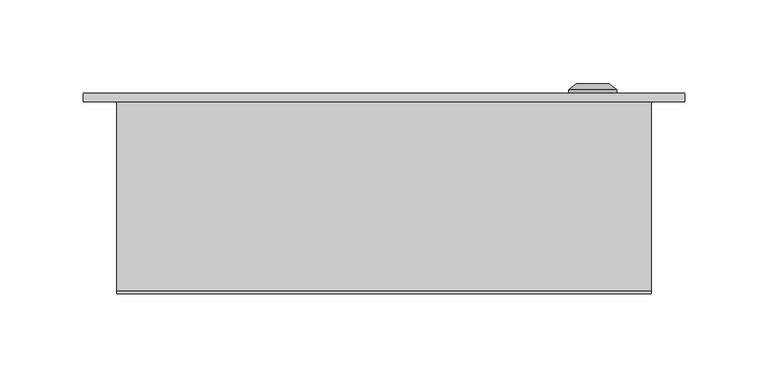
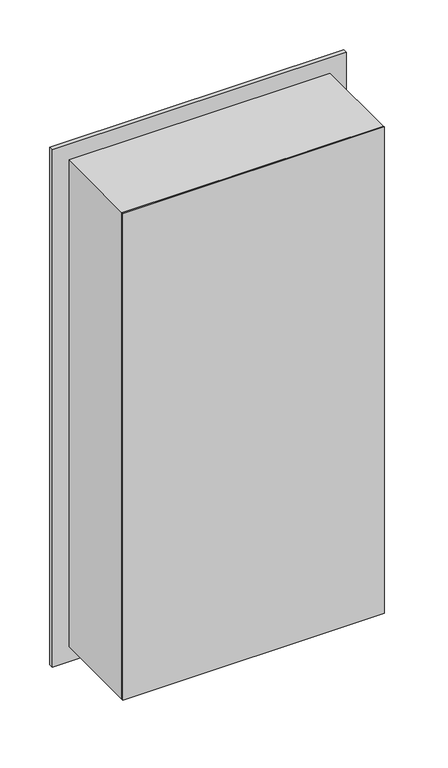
"""IFC4 building model written with IfcOpenShell, lengths in millimetres: proxy geometry, ЩРВ_48 : ЩРВ-48."""

from ifc_helpers import new_model, si_unit, frame, origin, origin_with_axes, place, context, project, spatial, polyline, circle_curve, outline, extrude, source, transform, mapped, element, save
from ifc_brep_helpers import plane_surface, cylinder_surface, revolved_surface, advanced_brep


def electrical_equipment_aaa1e754(model_context):
    return source(origin(), model_context, "Body", "SolidModel", [
        extrude(outline(polyline([(650.0, -180.0033905), (-20.0, -180.0033905), (-20.0, 179.9966095), (650.0, 179.9966095), (650.0, -180.0033905)]), holes=[polyline([(625.0, -155.0), (625.0, 155.0), (5.0, 155.0), (5.0, -155.0), (625.0, -155.0)])]), frame((0.0, 115.0, 0.0), z_axis=(0.0, 1.0, 0.0), x_axis=(0.0, 0.0, 1.0)), (0.0, 0.0, 1.0), 5.0),
        advanced_brep(
        [(110.669873, 120.0, 315.0), (139.330127, 120.0, 315.0), (125.0, 120.0, 315.0), (110.669873, 122.366592, 315.0), (139.330127, 122.366592, 315.0), (115.0, 126.0, 315.0), (135.0, 126.0, 315.0), (123.1080471, 126.0, 315.0), (126.8919529, 126.0, 315.0), (123.1080471, 124.9822294, 315.0), (126.8919529, 124.9822294, 315.0), (125.0, 124.9822294, 315.0)],
        [
            (0, 1, circle_curve(frame((125.0, 120.0, 315.0), z_axis=(0.0, -1.0, 0.0), x_axis=(1.0, 0.0, 0.0)), 14.330127)),
            (1, 2),
            (2, 0),
            (1, 0, circle_curve(frame((125.0, 120.0, 315.0), z_axis=(0.0, -1.0, 0.0), x_axis=(1.0, 0.0, 0.0)), 14.330127)),
            (3, 4, circle_curve(frame((125.0, 122.366592, 315.0), z_axis=(0.0, -1.0, 0.0), x_axis=(1.0, 0.0, 0.0)), 14.330127)),
            (4, 1),
            (0, 3),
            (4, 3, circle_curve(frame((125.0, 122.366592, 315.0), z_axis=(0.0, -1.0, 0.0), x_axis=(1.0, 0.0, 0.0)), 14.330127)),
            (5, 6, circle_curve(frame((125.0, 126.0, 315.0), z_axis=(0.0, -1.0, 0.0), x_axis=(1.0, 0.0, 0.0)), 10.0)),
            (6, 4),
            (3, 5),
            (6, 5, circle_curve(frame((125.0, 126.0, 315.0), z_axis=(0.0, -1.0, 0.0), x_axis=(1.0, 0.0, 0.0)), 10.0)),
            (7, 8, circle_curve(frame((125.0, 126.0, 315.0), z_axis=(0.0, -1.0, 0.0), x_axis=(1.0, 0.0, 0.0)), 1.8919529)),
            (8, 6),
            (5, 7),
            (8, 7, circle_curve(frame((125.0, 126.0, 315.0), z_axis=(0.0, -1.0, 0.0), x_axis=(1.0, 0.0, 0.0)), 1.8919529)),
            (9, 10, circle_curve(frame((125.0, 124.9822294, 315.0), z_axis=(0.0, -1.0, 0.0), x_axis=(1.0, 0.0, 0.0)), 1.8919529)),
            (10, 8),
            (7, 9),
            (10, 9, circle_curve(frame((125.0, 124.9822294, 315.0), z_axis=(0.0, -1.0, 0.0), x_axis=(1.0, 0.0, 0.0)), 1.8919529)),
            (11, 10),
            (9, 11),
        ],
        [
            plane_surface(frame((125.0, 120.0, 315.0), z_axis=(0.0, -1.0, 0.0), x_axis=(1.0, 0.0, 0.0))),
            cylinder_surface(frame((125.0, 133.1348851, 315.0), z_axis=(0.0, 1.0, 0.0), x_axis=(1.0, 0.0, 0.0)), 14.330127),
            revolved_surface(polyline([(139.330127, 122.366592, 315.0), (135.0, 126.0, 315.0)]), (125.0, 133.1348851, 315.0), (0.0, 1.0, 0.0)),
            plane_surface(frame((125.0, 126.0, 315.0), z_axis=(0.0, 1.0, 0.0), x_axis=(1.0, 0.0, 0.0))),
            revolved_surface(polyline([(126.8919529, 126.0, 315.0), (126.8919529, 124.9822294, 315.0)]), (125.0, 133.1348851, 315.0), (0.0, 1.0, 0.0)),
            plane_surface(frame((125.0, 124.9822294, 315.0), z_axis=(0.0, 1.0, 0.0), x_axis=(1.0, 0.0, 0.0))),
        ],
        [
            (0, [[1, 2, 3]]),
            (0, [[4, -3, -2]]),
            (1, [[5, 6, -1, 7]]),
            (1, [[8, -7, -4, -6]]),
            (2, [[9, 10, -5, 11]]),
            (2, [[12, -11, -8, -10]]),
            (3, [[13, 14, -9, 15]]),
            (3, [[16, -15, -12, -14]]),
            (4, [[17, 18, -13, 19]]),
            (4, [[20, -19, -16, -18]]),
            (5, [[21, -17, 22]]),
            (5, [[-22, -20, -21]]),
        ],
    ),
        extrude(outline(polyline([(154.0, 115.0), (-154.0, 115.0), (-154.0, 120.0), (154.0, 120.0), (154.0, 115.0)])), frame((0.0, 0.0, 6.0), z_axis=(0.0, 0.0, 1.0), x_axis=(1.0, 0.0, 0.0)), (0.0, 0.0, 1.0), 618.0),
        extrude(outline(polyline([(630.0, -160.0033905), (0.0, -160.0033905), (0.0, 159.9966095), (630.0, 159.9966095), (630.0, -160.0033905)]), holes=[polyline([(625.0, -155.0), (625.0, 155.0), (5.0, 155.0), (5.0, -155.0), (625.0, -155.0)])]), frame((0.0, 2.0, 0.0), z_axis=(0.0, 1.0, 0.0), x_axis=(0.0, 0.0, 1.0)), (0.0, 0.0, 1.0), 113.0),
        extrude(outline(polyline([(160.0, 0.0), (-160.0, 0.0), (-160.0, 2.0), (160.0, 2.0), (160.0, 0.0)])), origin_with_axes(), (0.0, 0.0, 1.0), 630.0),
    ])


if __name__ == "__main__":
    model = new_model("IFC4")
    model_context = context("Model", 3, world=origin())
    ifc_project = project(units=[si_unit("LENGTHUNIT", "METRE", prefix="MILLI")], contexts=[model_context])
    site = spatial("IfcSite", under=ifc_project)
    building = spatial("IfcBuilding", under=site)
    placement = place(None, origin())
    electrical_equipment_shape = electrical_equipment_aaa1e754(model_context)
    element("IfcBuildingElementProxy", 1, Name="ЩРВ_48 : ЩРВ-48", ObjectType="ЩРВ_48 : ЩРВ-48", at=placement, inside=building, context=model_context, shape_type="MappedRepresentation", body=[
        mapped(electrical_equipment_shape, transform((0.0, 0.0, 0.0), x_axis=(1.0, 0.0, 0.0), y_axis=(0.0, 1.0, 0.0), z_axis=(0.0, 0.0, 1.0))),
    ])
    save(model, "model.ifc")
